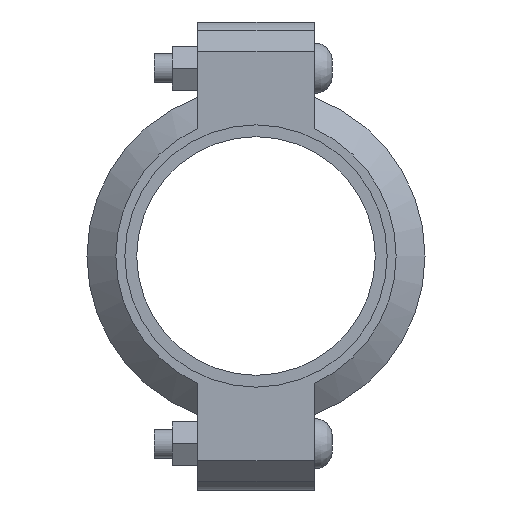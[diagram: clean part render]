
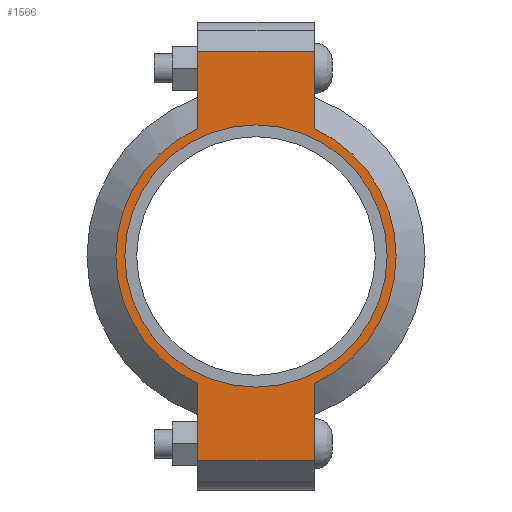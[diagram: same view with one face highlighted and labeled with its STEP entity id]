
A CAD part, left-side view. The second image highlights one B-rep face of the part: STEP entity #1566.
In plain terms, the highlighted planar face has unit normal (-1, 0, 0) as drawn and (0, 0, 1) by its records, which use the part's own axes.
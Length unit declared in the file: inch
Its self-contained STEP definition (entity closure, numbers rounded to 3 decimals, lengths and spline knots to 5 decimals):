
#190=LINE('',#2724,#283);
#198=LINE('',#2760,#291);
#205=LINE('',#2781,#298);
#214=LINE('',#2813,#307);
#215=LINE('',#2817,#308);
#216=LINE('',#2819,#309);
#283=VECTOR('',#2216,0.3937);
#291=VECTOR('',#2232,0.3937);
#298=VECTOR('',#2251,0.3937);
#307=VECTOR('',#2276,0.3937);
#308=VECTOR('',#2281,0.3937);
#309=VECTOR('',#2282,0.3937);
#365=FACE_BOUND('',#543,.T.);
#437=FACE_OUTER_BOUND('',#542,.T.);
#542=EDGE_LOOP('',(#1307,#1308,#1309,#1310,#1311,#1312,#1313,#1314));
#543=EDGE_LOOP('',(#1315));
#615=CIRCLE('',#1776,2.25);
#641=CIRCLE('',#1835,2.405);
#642=CIRCLE('',#1836,2.405);
#707=VERTEX_POINT('',#2540);
#750=VERTEX_POINT('',#2721);
#751=VERTEX_POINT('',#2723);
#762=VERTEX_POINT('',#2755);
#763=VERTEX_POINT('',#2759);
#770=VERTEX_POINT('',#2778);
#771=VERTEX_POINT('',#2780);
#781=VERTEX_POINT('',#2816);
#782=VERTEX_POINT('',#2818);
#863=EDGE_CURVE('',#707,#707,#615,.T.);
#924=EDGE_CURVE('',#751,#750,#190,.T.);
#938=EDGE_CURVE('',#763,#762,#198,.T.);
#948=EDGE_CURVE('',#771,#770,#205,.T.);
#963=EDGE_CURVE('',#763,#750,#214,.T.);
#964=EDGE_CURVE('',#762,#771,#641,.T.);
#965=EDGE_CURVE('',#781,#770,#215,.T.);
#966=EDGE_CURVE('',#781,#782,#216,.T.);
#967=EDGE_CURVE('',#782,#751,#642,.T.);
#1307=ORIENTED_EDGE('',*,*,#963,.F.);
#1308=ORIENTED_EDGE('',*,*,#938,.T.);
#1309=ORIENTED_EDGE('',*,*,#964,.T.);
#1310=ORIENTED_EDGE('',*,*,#948,.T.);
#1311=ORIENTED_EDGE('',*,*,#965,.F.);
#1312=ORIENTED_EDGE('',*,*,#966,.T.);
#1313=ORIENTED_EDGE('',*,*,#967,.T.);
#1314=ORIENTED_EDGE('',*,*,#924,.T.);
#1315=ORIENTED_EDGE('',*,*,#863,.T.);
#1408=PLANE('',#1834);
#1566=ADVANCED_FACE('',(#437,#365),#1408,.T.);
#1776=AXIS2_PLACEMENT_3D('',#2542,#2092,#2093);
#1834=AXIS2_PLACEMENT_3D('',#2814,#2277,#2278);
#1835=AXIS2_PLACEMENT_3D('',#2815,#2279,#2280);
#1836=AXIS2_PLACEMENT_3D('',#2820,#2283,#2284);
#2092=DIRECTION('center_axis',(0.,0.,-1.));
#2093=DIRECTION('ref_axis',(-1.,0.,0.));
#2216=DIRECTION('',(-1.,0.,0.));
#2232=DIRECTION('',(1.,0.,0.));
#2251=DIRECTION('',(1.,0.,0.));
#2276=DIRECTION('',(0.,1.,0.));
#2277=DIRECTION('center_axis',(0.,0.,1.));
#2278=DIRECTION('ref_axis',(1.,0.,0.));
#2279=DIRECTION('center_axis',(0.,0.,1.));
#2280=DIRECTION('ref_axis',(-1.,0.,0.));
#2281=DIRECTION('',(0.,-1.,0.));
#2282=DIRECTION('',(-1.,0.,0.));
#2283=DIRECTION('center_axis',(0.,0.,1.));
#2284=DIRECTION('ref_axis',(-1.,0.,0.));
#2540=CARTESIAN_POINT('',(2.25,0.,1.065));
#2542=CARTESIAN_POINT('Origin',(0.,0.,1.065));
#2721=CARTESIAN_POINT('',(-3.515,1.,1.065));
#2723=CARTESIAN_POINT('',(-2.18724,1.,1.065));
#2724=CARTESIAN_POINT('',(-4.015,1.,1.065));
#2755=CARTESIAN_POINT('',(-2.18724,-1.,1.065));
#2759=CARTESIAN_POINT('',(-3.515,-1.,1.065));
#2760=CARTESIAN_POINT('',(4.015,-1.,1.065));
#2778=CARTESIAN_POINT('',(3.515,-1.,1.065));
#2780=CARTESIAN_POINT('',(2.18724,-1.,1.065));
#2781=CARTESIAN_POINT('',(4.015,-1.,1.065));
#2813=CARTESIAN_POINT('',(-3.515,0.5,1.065));
#2814=CARTESIAN_POINT('Origin',(0.,0.,1.065));
#2815=CARTESIAN_POINT('Origin',(0.,0.,1.065));
#2816=CARTESIAN_POINT('',(3.515,1.,1.065));
#2817=CARTESIAN_POINT('',(3.515,-0.5,1.065));
#2818=CARTESIAN_POINT('',(2.18724,1.,1.065));
#2819=CARTESIAN_POINT('',(-4.015,1.,1.065));
#2820=CARTESIAN_POINT('Origin',(0.,0.,1.065));
